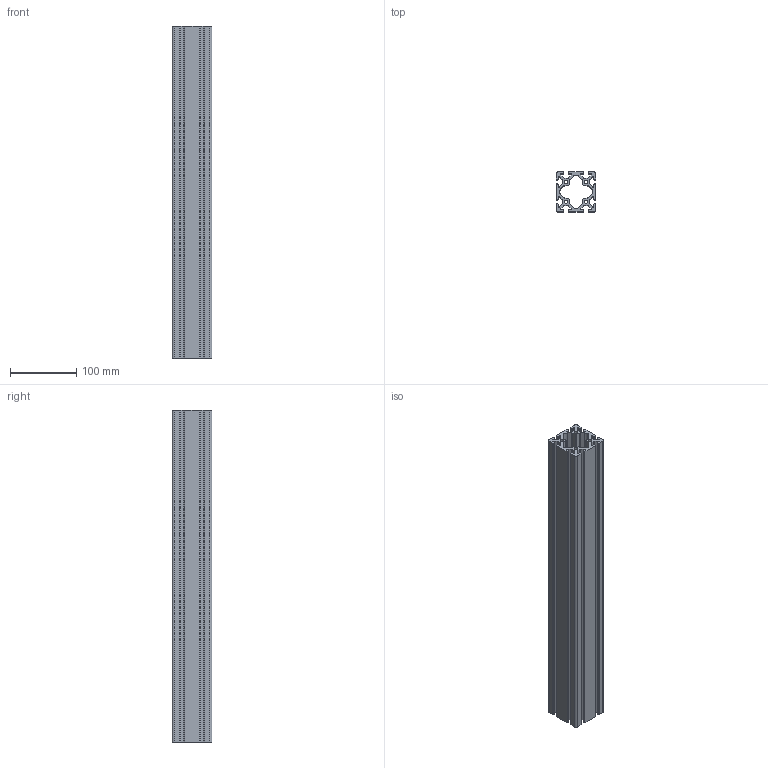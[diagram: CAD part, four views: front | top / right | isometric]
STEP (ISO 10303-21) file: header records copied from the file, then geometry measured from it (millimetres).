
FILE_DESCRIPTION (( 'STEP AP203' ), '1' );
FILE_NAME ('PP3040-500-Rollco.step', '2026-05-04T07:38:02', ( '' ), ( '' ), 'SwSTEP 2.0', 'SolidWorks 2014', '' );
FILE_SCHEMA (( 'CONFIG_CONTROL_DESIGN' ));
Length unit declared in the file: millimetre
Products named in the file (1): PP3040-500-Rollco
Bounding box: 60 x 60 x 500 mm (x, y, z)
Volume: 672893.3 mm3; surface area: 354177.5 mm2
Topology: 1 solids, 1 shells, 191 faces, 567 edges, 378 vertices
Faces by surface type: cylinder 101, plane 90
Entity records: 6560 total; most frequent: DIRECTION 1153, CARTESIAN_POINT 1137, ORIENTED_EDGE 1134, EDGE_CURVE 567, AXIS2_PLACEMENT_3D 394, VERTEX_POINT 378, VECTOR 365, LINE 365
